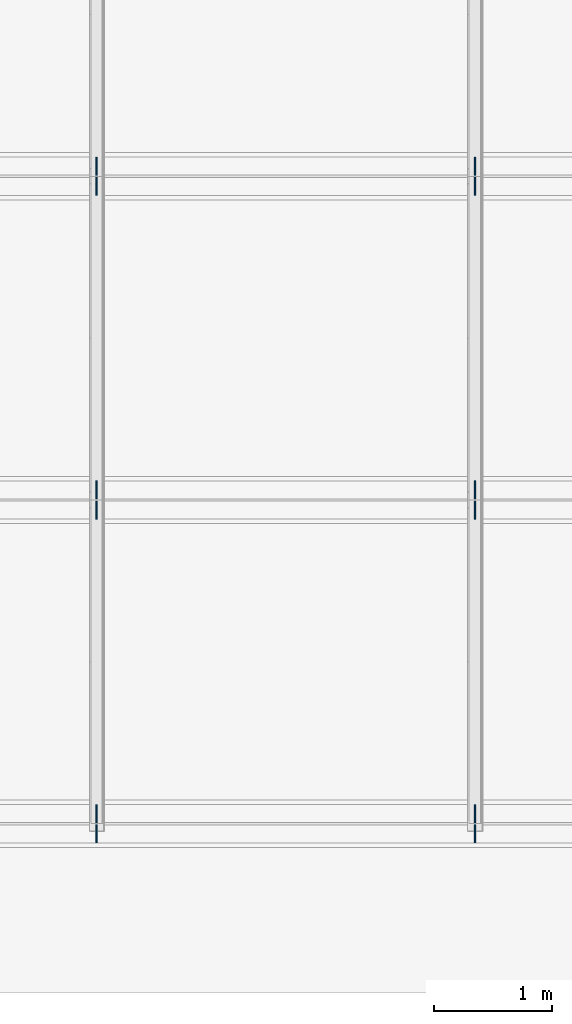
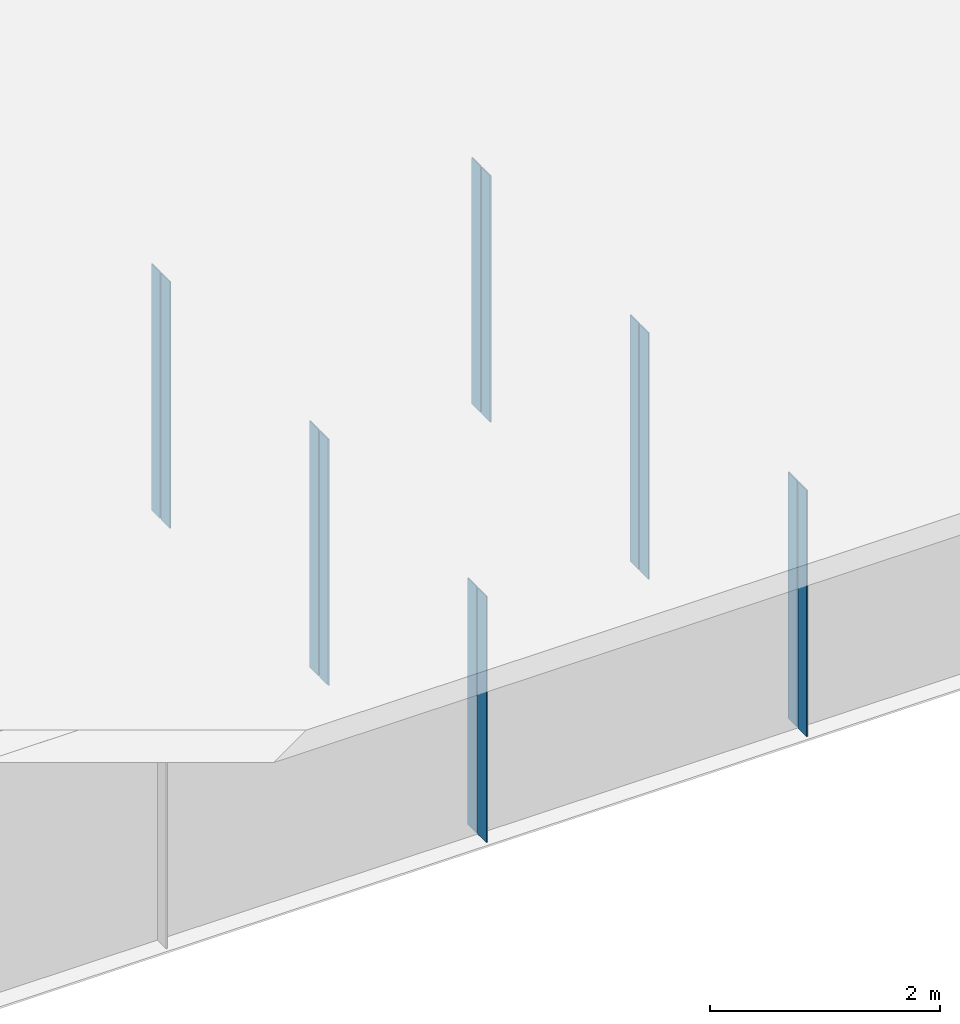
# One storey, part 13 of 20: 12 plates.
"""IFC4 building model written with IfcOpenShell, lengths in metres."""

from ifc_helpers import new_model, si_unit, frame, origin, origin_with_axes, origin_2d_with_axis, place, context, subcontext, project, spatial, rectangle, extrude, element, save


model = new_model("IFC4")

# Units and contexts
model_context = context("Model", 3, precision=1e-05, world=origin())
body_context = subcontext(model_context, "Body", "Model", "MODEL_VIEW")
ifc_project = project(units=[si_unit("LENGTHUNIT", "METRE"), si_unit("AREAUNIT", "SQUARE_METRE"), si_unit("VOLUMEUNIT", "CUBIC_METRE"), si_unit("PLANEANGLEUNIT", "RADIAN")], contexts=[model_context])

# Site, building, storey
site_placement = place(None, origin_with_axes())
site = spatial("IfcSite", under=ifc_project, at=site_placement, Name="Default Site")
building_placement = place(site_placement, origin_with_axes())
building = spatial("IfcBuilding", under=site, at=building_placement, Name="Bridge Structure")
storey_placement = place(building_placement, origin_with_axes())
storey = spatial("IfcBuildingStorey", under=building, at=storey_placement, Name="Superstructure")

# Plates
for number, where, z_axis, x_axis, name in (
    (1, (25.712, -5.41425, -1.307), (0.0, 0.0, 1.0), (1.0, 0.0, 0.0), "Intermediate Stiffener 1"),
    (2, (25.712, -5.58575, -1.307), (0.0, 0.0, 1.0), (1.0, 0.0, 0.0), "Intermediate Stiffener 1"),
    (3, (28.926000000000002, -5.41425, -1.307), (0.0, 0.0, 1.0), (1.0, 0.0, 0.0), "Intermediate Stiffener 1"),
    (4, (28.926000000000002, -5.58575, -1.307), (0.0, 0.0, 1.0), (1.0, 0.0, 0.0), "Intermediate Stiffener 1"),
    (5, (25.712, -2.66425, -1.307), (0.0, 0.0, 1.0), (1.0, 0.0, 0.0), "Intermediate Stiffener 2"),
    (6, (25.712, -2.83575, -1.307), (0.0, 0.0, 1.0), (1.0, 0.0, 0.0), "Intermediate Stiffener 2"),
    (7, (28.926000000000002, -2.66425, -1.307), (0.0, 0.0, 1.0), (1.0, 0.0, 0.0), "Intermediate Stiffener 2"),
    (8, (28.926000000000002, -2.83575, -1.307), (0.0, 0.0, 1.0), (1.0, 0.0, 0.0), "Intermediate Stiffener 2"),
    (9, (25.712, 0.08575, -1.307), (0.0, 0.0, 1.0), (1.0, 0.0, 0.0), "Intermediate Stiffener 3"),
    (10, (25.712, -0.08575, -1.307), (0.0, 0.0, 1.0), (1.0, 0.0, 0.0), "Intermediate Stiffener 3"),
    (11, (28.926000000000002, 0.08575, -1.307), (0.0, 0.0, 1.0), (1.0, 0.0, 0.0), "Intermediate Stiffener 3"),
    (12, (28.926000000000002, -0.08575, -1.307), (0.0, 0.0, 1.0), (1.0, 0.0, 0.0), "Intermediate Stiffener 3"),
):
    element("IfcPlate", number, at=place(storey_placement, frame(where, z_axis=z_axis, x_axis=x_axis)), inside=storey, Name=name, context=body_context, shape_type="SweptSolid", body=[
        extrude(rectangle(XDim=0.012, YDim=0.1535, at=origin_2d_with_axis()), origin_with_axes(), (0.0, 0.0, 1.0), 2.614),
    ])

save(model, "model.ifc")
